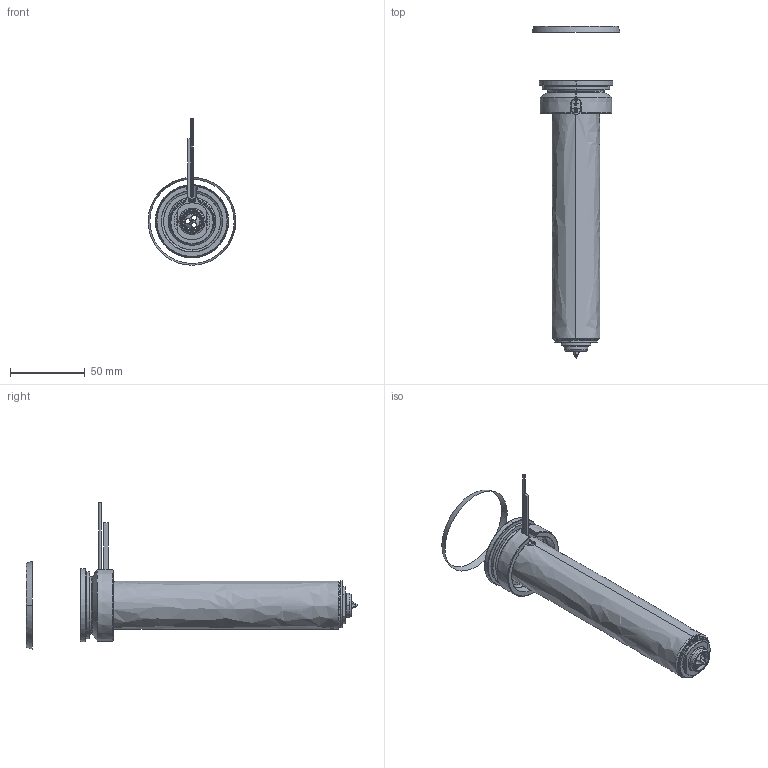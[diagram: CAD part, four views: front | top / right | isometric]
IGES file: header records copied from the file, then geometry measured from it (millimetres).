
Start section: SolidWorks IGES file using analytic representation for surfaces
Global section: file name: C:\Documents and Settings\ws-20\Desktop\TEM\UGEP5004-S-A-0 [Øf-0.80 ØC-12].IGS; native system: SolidWorks 2012; preprocessor: SolidWorks 2012; author: ws-20; date: 120426.095806; units: millimetre
Bounding box: 58.79 x 222.24 x 98.01 mm (x, y, z)
Surface area: 67361.6 mm2 (no closed solid volume)
Topology: 0 solids, 0 shells, 124 faces, 2360 edges, 2360 vertices
Faces by surface type: revolution 81, bspline 43
